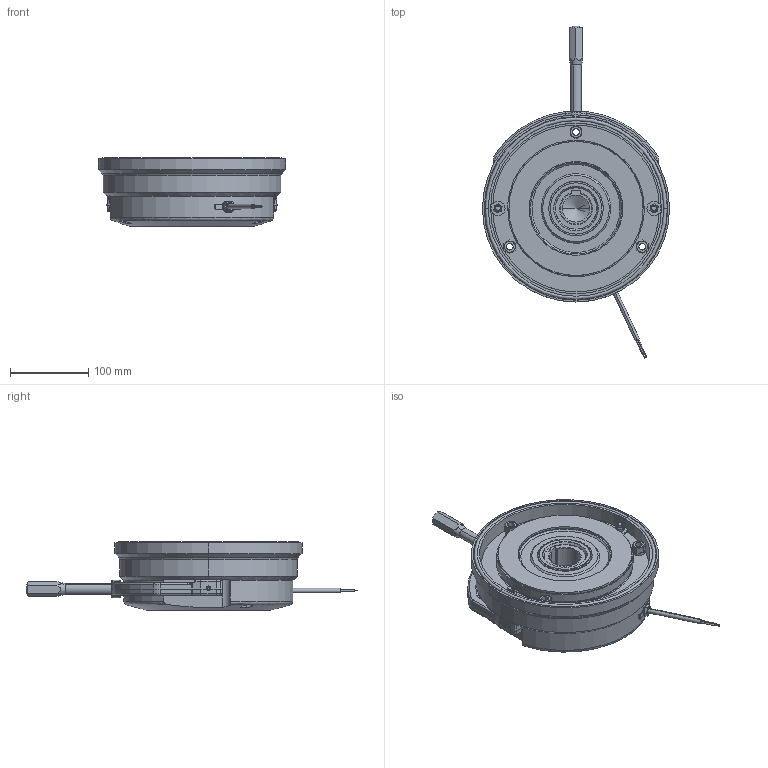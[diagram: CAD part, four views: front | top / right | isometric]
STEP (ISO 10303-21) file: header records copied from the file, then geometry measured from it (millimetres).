
FILE_DESCRIPTION (( 'STEP AP214' ), '1' );
FILE_NAME ('0828 mit HL.STEP', '2026-04-28T05:54:59', ( '' ), ( '' ), 'SwSTEP 2.0', 'SolidWorks 2025', '' );
FILE_SCHEMA (( 'AUTOMOTIVE_DESIGN' ));
Length unit declared in the file: millimetre
Products named in the file (22): 10062098_000; 10012207_000_Einbauzustand: D=14, d=4, b=3,8; 10012544_000; Kundenmodell^10088674swa000; 10007325_000; 10010494_000; 10009982_000; 10007151_000; 0828 mit HL; 10002811_000_Ausführung 9 Grad; 10001668_000_M 6; 10007521_000; 10007145_000; 10010495_000; 10088674swa000_Kundenmodell; 10007109_000_Einbaulänge 15,2; 10012557_000; 10007130_000; 10007326_000; 10012208_000; 10001694_000_6,4
Assembly tree (30 placements, depth 3):
  0828 mit HL
    10088674swa000_Kundenmodell
      10002811_000_Ausführung 9 Grad
      10062098_000
      Kundenmodell^10088674swa000
    10007325_000
      10007326_000
      10007151_000
      10007151_000
    10007521_000  x3
    10007130_000
    10012544_000
    10007145_000
    10010495_000  x2
    10001668_000_M 6  x2
    10001694_000_6,4  x2
    10007109_000_Einbaulänge 15,2  x2
    10010494_000  x2
    10009982_000
    10012557_000
    10012208_000  x2
    10012207_000_Einbauzustand: D=14, d=4, b=3,8  x2
Bounding box: 240 x 425.6 x 87.35 mm (x, y, z)
Volume: 2820412 mm3; surface area: 466479.4 mm2
Topology: 28 solids, 28 shells, 1368 faces, 3424 edges, 2124 vertices
Faces by surface type: cylinder 467, plane 389, cone 268, torus 132, bspline 96, sphere 16
Entity records: 43066 total; most frequent: CARTESIAN_POINT 13276, DIRECTION 6241, ORIENTED_EDGE 6156, EDGE_CURVE 3078, AXIS2_PLACEMENT_3D 2588, VERTEX_POINT 1925, CIRCLE 1400, EDGE_LOOP 1327
